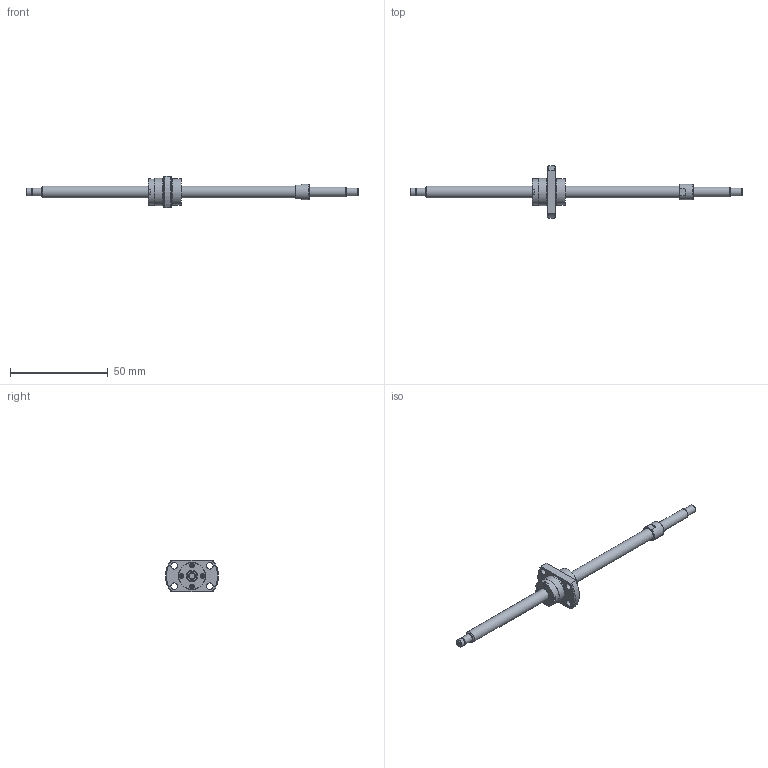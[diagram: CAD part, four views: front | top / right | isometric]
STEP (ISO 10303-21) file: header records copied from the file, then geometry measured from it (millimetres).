
FILE_DESCRIPTION(/* description */ ('STEP AP214'),/* implementation_level */ '2;1');
FILE_NAME(/* name */ 'SG0606-126R170C5B0X(54.5)',/* time_stamp */ '2026-07-20T20:19:35+02:00',/* author */ ('License CC BY-ND 4.0'),/* organization */ ('CADENAS'),/* preprocessor_version */ 'ST-DEVELOPER v20',/* originating_system */ 'PARTsolutions',/* authorisation */ ' ');
FILE_SCHEMA (('AUTOMOTIVE_DESIGN {1 0 10303 214 3 1 1}'));
Length unit declared in the file: millimetre
Products named in the file (3): SG0606-126R170C5B0X(54.5); SG0606-126R170C5B_shaft; SG0606 C5_nut
Assembly tree (2 placements, depth 2):
  SG0606-126R170C5B0X(54.5)
    SG0606-126R170C5B_shaft
    SG0606 C5_nut
Bounding box: 170 x 27 x 16 mm (x, y, z)
Volume: 7462.5 mm3; surface area: 5281.8 mm2
Topology: 2 solids, 2 shells, 106 faces, 239 edges, 156 vertices
Faces by surface type: plane 65, cylinder 27, cone 13, torus 1
Full cylindrical faces by diameter (mm): 2.25 x4, 3.4 x4, 3.7 x1, 4 x3, 5 x1, 6 x2, 8 x1, 13.6 x3, 14 x2
Entity records: 2891 total; most frequent: DIRECTION 494, CARTESIAN_POINT 493, ORIENTED_EDGE 412, EDGE_CURVE 206, AXIS2_PLACEMENT_3D 187, EDGE_LOOP 166, FACE_BOUND 166, VERTEX_POINT 154
